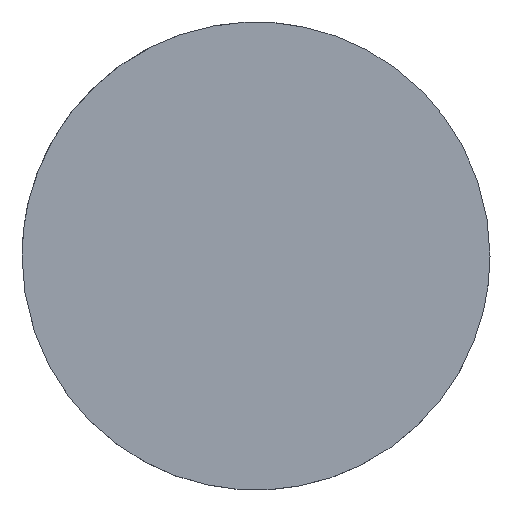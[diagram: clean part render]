
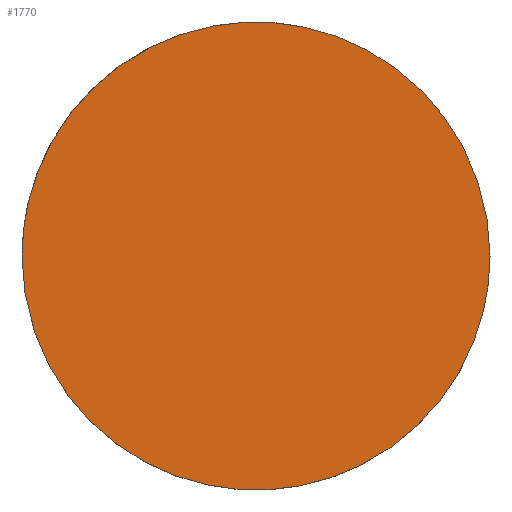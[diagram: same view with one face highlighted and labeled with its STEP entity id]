
A CAD part, top view. The second image highlights one B-rep face of the part: STEP entity #1770.
In plain terms, the highlighted planar face has unit normal (0, 0, 1).
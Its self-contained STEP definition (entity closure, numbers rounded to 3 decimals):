
#190 = CARTESIAN_POINT ('', (-12.5, 0., -46.031));
#200 = VERTEX_POINT ('', #190);
#260 = CARTESIAN_POINT ('', (12.5, 0., -46.031));
#270 = VERTEX_POINT ('', #260);
#280 = CARTESIAN_POINT ('', (12.5, 0., -46.031));
#290 = CARTESIAN_POINT ('', (12.5, 12.5, -46.031));
#300 = CARTESIAN_POINT ('', (0., 12.5, -46.031));
#310 = CARTESIAN_POINT ('', (-12.5, 12.5, -46.031));
#320 = CARTESIAN_POINT ('', (-12.5, 0., -46.031));
#330 = (
   BOUNDED_CURVE ()
   B_SPLINE_CURVE (2, (#280, #290, #300, #310, #320), .UNSPECIFIED., .F., .U.)
   B_SPLINE_CURVE_WITH_KNOTS ((3, 2, 3), (0., 1.571, 3.142), .UNSPECIFIED.)
   CURVE ()
   GEOMETRIC_REPRESENTATION_ITEM ()
   RATIONAL_B_SPLINE_CURVE ((1., 0.707, 1., 0.707, 1.))
   REPRESENTATION_ITEM ('')
);
#340 = EDGE_CURVE ('', #270, #200, #330, .T.);
#580 = CARTESIAN_POINT ('', (-12.5, 0., -46.031));
#590 = CARTESIAN_POINT ('', (-12.5, -12.5, -46.031));
#600 = CARTESIAN_POINT ('', (0., -12.5, -46.031));
#610 = CARTESIAN_POINT ('', (12.5, -12.5, -46.031));
#620 = CARTESIAN_POINT ('', (12.5, 0., -46.031));
#630 = (
   BOUNDED_CURVE ()
   B_SPLINE_CURVE (2, (#580, #590, #600, #610, #620), .UNSPECIFIED., .F., .U.)
   B_SPLINE_CURVE_WITH_KNOTS ((3, 2, 3), (3.142, 4.712, 6.283), .UNSPECIFIED.)
   CURVE ()
   GEOMETRIC_REPRESENTATION_ITEM ()
   RATIONAL_B_SPLINE_CURVE ((1., 0.707, 1., 0.707, 1.))
   REPRESENTATION_ITEM ('')
);
#640 = EDGE_CURVE ('', #200, #270, #630, .T.);
#1680 = ORIENTED_EDGE ('', *, *, #340, .T.);
#1690 = ORIENTED_EDGE ('', *, *, #640, .T.);
#1700 = EDGE_LOOP ('', (#1680, #1690));
#1710 = FACE_OUTER_BOUND ('', #1700, .T.);
#1720 = CARTESIAN_POINT ('', (0., 25.704, -46.031));
#1730 = DIRECTION ('', (0., 0., 1.));
#1740 = DIRECTION ('', (-0.707, -0.707, 0.));
#1750 = AXIS2_PLACEMENT_3D ('', #1720, #1730, #1740);
#1760 = PLANE ('', #1750);
#1770 = ADVANCED_FACE ('', (#1710), #1760, .T.);
